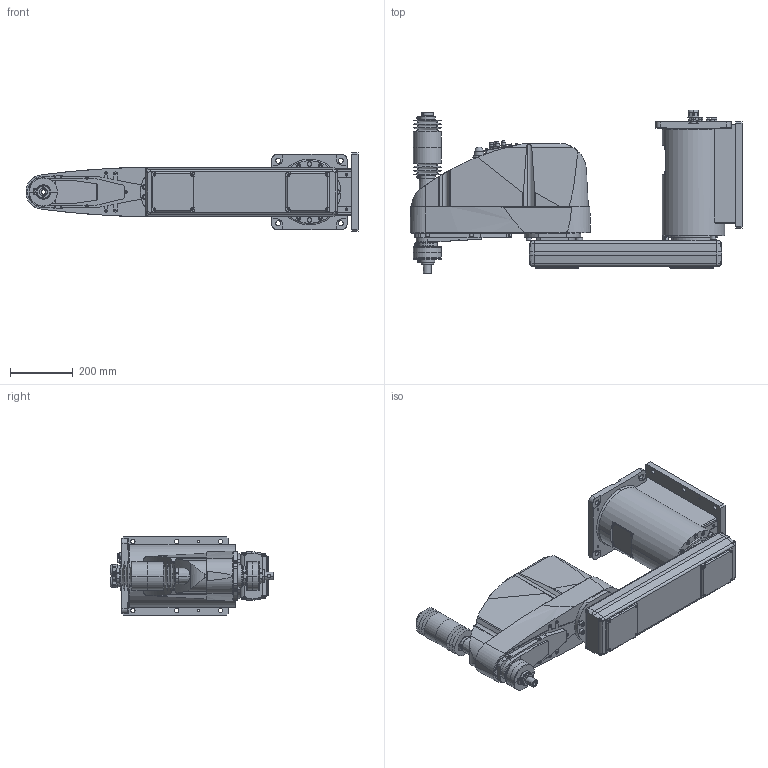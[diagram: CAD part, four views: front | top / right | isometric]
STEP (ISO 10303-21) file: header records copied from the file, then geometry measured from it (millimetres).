
FILE_DESCRIPTION( ( '' ), '1' );
FILE_NAME( '//expscmdclustefs.cadenas.external/client_exchange/iodir/jobs/output/wkb51506915_no0/STEP/G20_851CW_2_03.stp', '2012-11-22T13:50:21', ( '' ), ( '' ), ' ', ' ', ' ' );
FILE_SCHEMA( ( 'CONFIG_CONTROL_DESIGN' ) );
Length unit declared in the file: millimetre
Products named in the file (8): 1; 2; 3; 4; 5; 6; 7; 8
Bounding box: 1060.5 x 523 x 250 mm (x, y, z)
Volume: 43272647.9 mm3; surface area: 1713653.9 mm2
Topology: 8 solids, 8 shells, 2083 faces, 5049 edges, 3273 vertices
Faces by surface type: plane 1104, cylinder 705, cone 244, torus 29, sphere 1
Entity records: 63294 total; most frequent: CARTESIAN_POINT 12676, DIRECTION 10850, ORIENTED_EDGE 10082, EDGE_CURVE 5041, AXIS2_PLACEMENT_3D 3873, VERTEX_POINT 3273, LINE 3104, VECTOR 3104
